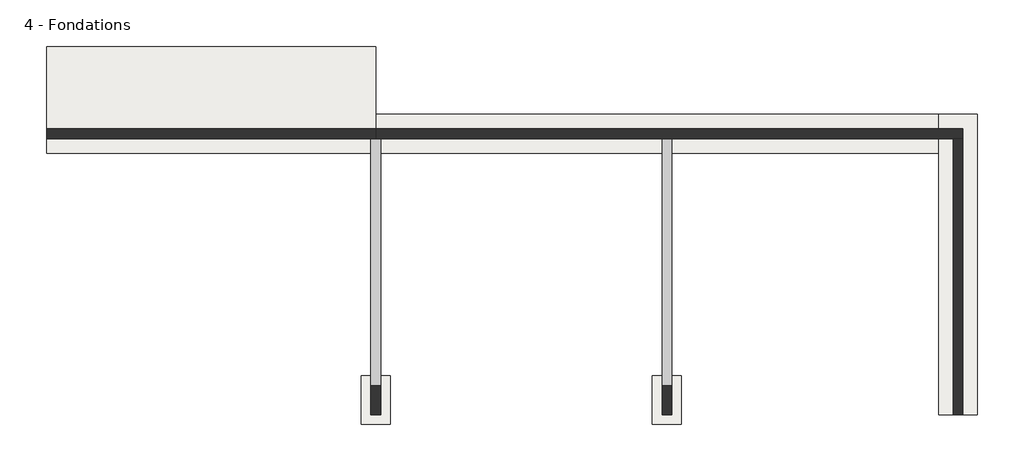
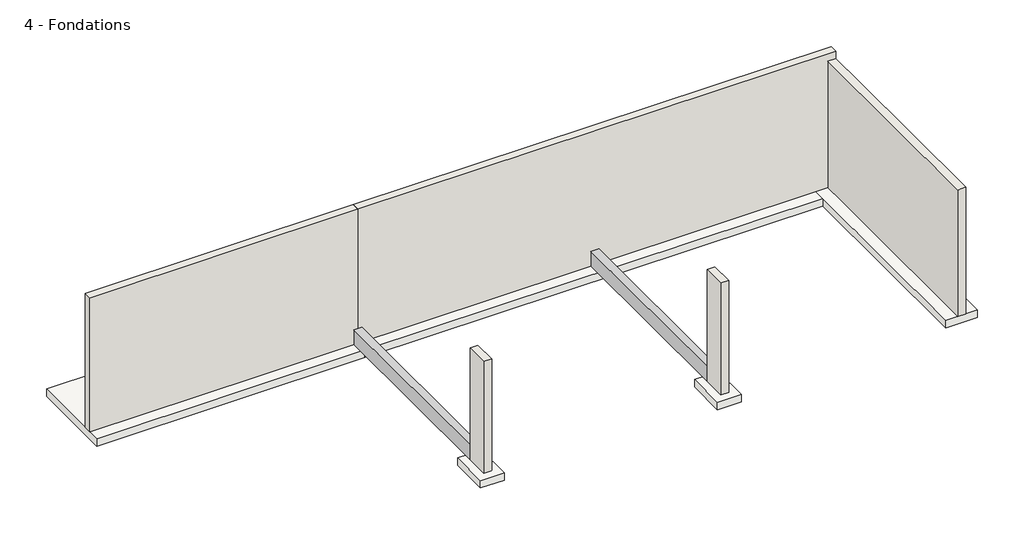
# One storey: 5 walls, 3 footings, 2 beams, 2 slabs.
"""IFC4 building model written with IfcOpenShell, lengths in millimetres."""

from ifc_helpers import new_model, si_unit, frame, origin, place, context, project, spatial, polyline, outline, extrude, faceted_brep, element, save

model = new_model("IFC4")

# Units and contexts
model_context = context("Model", 3, world=origin())
ifc_project = project(units=[si_unit("LENGTHUNIT", "METRE", prefix="MILLI")], contexts=[model_context])

# Site, building, storey
site = spatial("IfcSite", under=ifc_project)
building = spatial("IfcBuilding", under=site)
storey = spatial("IfcBuildingStorey", under=building, Name="4 - Fondations", Elevation=-600.0)

# Beams
placement = place(None, origin())
element("IfcBeam", 1, ObjectType="Poutre rectangulaire - Béton : 200 x 600 mm 2", at=placement, inside=storey, context=model_context, shape_type="SweptSolid", body=[
    extrude(outline(polyline([(-5173.7146801, 5528.3158898), (-4973.7146801, 5528.3158898), (-4973.7146801, 428.3158898), (-5173.7146801, 428.3158898), (-5173.7146801, 5528.3158898)])), frame((0.0, 0.0, -600.0), z_axis=(0.0, 0.0, 1.0), x_axis=(1.0, 0.0, 0.0)), (0.0, 0.0, 1.0), 400.0),
    extrude(outline(polyline([(-5073.7146801, 5730.7087981), (-4973.7146801, 5730.7087981), (-4973.7146801, 5728.3158898), (-5073.7146801, 5728.3158898), (-5073.7146801, 5730.7087981)])), frame((0.0, 0.0, -600.0), z_axis=(0.0, 0.0, 1.0), x_axis=(1.0, 0.0, 0.0)), (0.0, 0.0, 1.0), 600.0),
])
element("IfcBeam", 2, ObjectType="Poutre rectangulaire - Béton : 200 x 600 mm 2", at=placement, inside=storey, context=model_context, shape_type="SweptSolid", body=[
    extrude(outline(polyline([(836.2853199, 5528.3158898), (1036.2853199, 5528.3158898), (1036.2853199, 428.3158898), (836.2853199, 428.3158898), (836.2853199, 5528.3158898)])), frame((0.0, 0.0, -600.0), z_axis=(0.0, 0.0, 1.0), x_axis=(1.0, 0.0, 0.0)), (0.0, 0.0, 1.0), 400.0),
])

# Footings
element("IfcFooting", 3, ObjectType="cantil 2 x 0.2", at=placement, inside=storey, context=model_context, shape_type="Brep", body=[
    faceted_brep([(-11869.7729736, 5228.3158898, -600.0), (-11869.7729736, 7428.3158898, -600.0), (-11869.7729736, 7428.3158898, -800.0), (-11869.7729736, 5228.3158898, -800.0), (-5073.7146801, 7428.3158898, -600.0), (-5073.7146801, 6028.3158898, -600.0), (-5073.7146801, 5228.3158898, -600.0), (-5073.7146801, 5228.3158898, -800.0), (-5073.7146801, 6028.3158898, -800.0), (-5073.7146801, 7428.3158898, -800.0)], [[[0, 1, 2, 3]], [[4, 5, 6, 7, 8, 9]], [[0, 6, 5, 4, 1]], [[2, 1, 4, 9]], [[3, 2, 9, 8, 7]], [[0, 3, 7, 6]]]),
])
element("IfcFooting", 4, ObjectType="0.6 x 0.2", at=placement, inside=storey, context=model_context, shape_type="Brep", body=[
    faceted_brep([(7346.2853199, -171.6841102, -600.0), (6546.2853199, -171.6841102, -600.0), (6546.2853199, -171.6841102, -800.0), (7346.2853199, -171.6841102, -800.0), (6546.2853199, 6028.3158898, -600.0), (6546.2853199, 5228.3158898, -600.0), (7346.2853199, 6028.3158898, -600.0), (7346.2853199, 6028.3158898, -800.0), (6546.2853199, 6028.3158898, -800.0), (6546.2853199, 5228.3158898, -800.0)], [[[0, 1, 2, 3]], [[4, 5, 1, 0, 6]], [[7, 6, 0, 3]], [[8, 7, 3, 2, 9]], [[4, 8, 9, 2, 1, 5]], [[4, 6, 7, 8]]]),
])
element("IfcFooting", 5, ObjectType="0.6 x 0.2", at=placement, inside=storey, context=model_context, shape_type="Brep", body=[
    faceted_brep([(-5073.7146801, 6028.3158898, -600.0), (-5073.7146801, 6028.3158898, -800.0), (-5073.7146801, 5228.3158898, -800.0), (-5073.7146801, 5228.3158898, -600.0), (-5073.7146801, 5728.3158898, -600.0), (-5073.7146801, 5730.7087981, -600.0), (6546.2853199, 5228.3158898, -600.0), (6546.2853199, 6028.3158898, -600.0), (6546.2853199, 6028.3158898, -800.0), (6546.2853199, 5228.3158898, -800.0)], [[[0, 1, 2, 3, 4, 5]], [[0, 5, 4, 3, 6, 7]], [[1, 0, 7, 8]], [[2, 1, 8, 9]], [[3, 2, 9, 6]], [[7, 6, 9, 8]]]),
])

# Slabs
element("IfcSlab", 6, ObjectType="Base rectangulaire : 100 x 60 x 25", at=placement, inside=storey, context=model_context, shape_type="SweptSolid", body=[
    extrude(outline(polyline([(-4773.7146801, 628.3158898), (-4773.7146801, -371.6841102), (-5373.7146801, -371.6841102), (-5373.7146801, 628.3158898), (-4773.7146801, 628.3158898)])), frame((0.0, 0.0, -800.0), z_axis=(0.0, 0.0, 1.0), x_axis=(1.0, 0.0, 0.0)), (0.0, 0.0, 1.0), 200.0),
    extrude(outline(polyline([(-4773.7146801, 628.3158898), (-4773.7146801, -371.6841102), (-5373.7146801, -371.6841102), (-5373.7146801, 628.3158898), (-4773.7146801, 628.3158898)])), frame((0.0, 0.0, -800.0), z_axis=(0.0, 0.0, 1.0), x_axis=(1.0, 0.0, 0.0)), (0.0, 0.0, 1.0), 200.0),
])
element("IfcSlab", 7, ObjectType="Base rectangulaire : 100 x 60 x 25", at=placement, inside=storey, context=model_context, shape_type="SweptSolid", body=[
    extrude(outline(polyline([(1236.2853199, 628.3158898), (1236.2853199, -371.6841102), (636.2853199, -371.6841102), (636.2853199, 628.3158898), (1236.2853199, 628.3158898)])), frame((0.0, 0.0, -800.0), z_axis=(0.0, 0.0, 1.0), x_axis=(1.0, 0.0, 0.0)), (0.0, 0.0, 1.0), 200.0),
    extrude(outline(polyline([(1236.2853199, 628.3158898), (1236.2853199, -371.6841102), (636.2853199, -371.6841102), (636.2853199, 628.3158898), (1236.2853199, 628.3158898)])), frame((0.0, 0.0, -800.0), z_axis=(0.0, 0.0, 1.0), x_axis=(1.0, 0.0, 0.0)), (0.0, 0.0, 1.0), 200.0),
])

# Walls
element("IfcWall", 8, ObjectType="Générique - Ext. 200 mm", at=placement, inside=storey, context=model_context, shape_type="SweptSolid", body=[
    extrude(outline(polyline([(-5073.7146801, 5528.3158898), (-11869.7729736, 5528.3158898), (-11869.7729736, 5728.3158898), (-5073.7146801, 5728.3158898), (-5073.7146801, 5528.3158898)])), frame((0.0, 0.0, -600.0), z_axis=(0.0, 0.0, 1.0), x_axis=(1.0, 0.0, 0.0)), (0.0, 0.0, 1.0), 3600.0),
])
element("IfcWall", 9, ObjectType="Générique - Ext. 200 mm", at=placement, inside=storey, context=model_context, shape_type="Brep", body=[
    faceted_brep([(6846.2853199, 5528.3158898, -600.0), (6846.2853199, -171.6841102, -600.0), (6846.2853199, -171.6841102, 2400.0), (6846.2853199, -171.6841102, 2800.0), (6846.2853199, 5528.3158898, 2800.0), (7046.2853199, 5528.3158898, -600.0), (7046.2853199, 5528.3158898, 2800.0), (7046.2853199, 4528.3158898, 2800.0), (7046.2853199, -171.6841102, 2800.0), (7046.2853199, -171.6841102, 2400.0), (7046.2853199, -171.6841102, -600.0)], [[[0, 1, 2, 3, 4]], [[5, 6, 7, 8, 9, 10]], [[1, 0, 5, 10]], [[3, 2, 1, 10, 9, 8]], [[0, 4, 6, 5]], [[4, 3, 8, 7, 6]]]),
])
element("IfcWall", 10, ObjectType="Générique - Ext. 200 mm", at=placement, inside=storey, context=model_context, shape_type="Brep", body=[
    faceted_brep([(836.2853199, 428.3158898, -600.0), (836.2853199, -171.6841102, -600.0), (836.2853199, -171.6841102, 2400.0), (836.2853199, 428.3158898, 2400.0), (836.2853199, 428.3158898, -200.0), (1036.2853199, 428.3158898, -600.0), (1036.2853199, 428.3158898, -200.0), (1036.2853199, 428.3158898, 2400.0), (1036.2853199, -171.6841102, 2400.0), (1036.2853199, -171.6841102, -600.0)], [[[0, 1, 2, 3, 4]], [[5, 6, 7, 8, 9]], [[1, 0, 5, 9]], [[2, 1, 9, 8]], [[3, 2, 8, 7]], [[0, 4, 3, 7, 6, 5]]]),
])
element("IfcWall", 11, ObjectType="Générique - Ext. 200 mm", at=placement, inside=storey, context=model_context, shape_type="Brep", body=[
    faceted_brep([(-5173.7146801, 428.3158898, -600.0), (-5173.7146801, -171.6841102, -600.0), (-5173.7146801, -171.6841102, 2400.0), (-5173.7146801, 428.3158898, 2400.0), (-5173.7146801, 428.3158898, -200.0), (-4973.7146801, 428.3158898, -600.0), (-4973.7146801, 428.3158898, -200.0), (-4973.7146801, 428.3158898, 2400.0), (-4973.7146801, -171.6841102, 2400.0), (-4973.7146801, -171.6841102, -600.0)], [[[0, 1, 2, 3, 4]], [[5, 6, 7, 8, 9]], [[1, 0, 5, 9]], [[2, 1, 9, 8]], [[3, 2, 8, 7]], [[0, 4, 3, 7, 6, 5]]]),
])
element("IfcWall", 12, ObjectType="Générique - Ext. 200 mm", at=placement, inside=storey, context=model_context, shape_type="Brep", body=[
    faceted_brep([(-5073.7146801, 5528.3158898, -600.0), (6846.2853199, 5528.3158898, -600.0), (7046.2853199, 5528.3158898, -600.0), (7046.2853199, 5528.3158898, 2800.0), (7046.2853199, 5528.3158898, 3000.0), (-5073.7146801, 5528.3158898, 3000.0), (-5073.7146801, 5728.3158898, -600.0), (-5073.7146801, 5728.3158898, 3000.0), (7046.2853199, 5728.3158898, 3000.0), (7046.2853199, 5728.3158898, -600.0)], [[[0, 1, 2, 3, 4, 5]], [[6, 7, 8, 9]], [[2, 1, 0, 6, 9]], [[5, 4, 8, 7]], [[0, 5, 7, 6]], [[4, 3, 2, 9, 8]]]),
])

save(model, "model.ifc")
